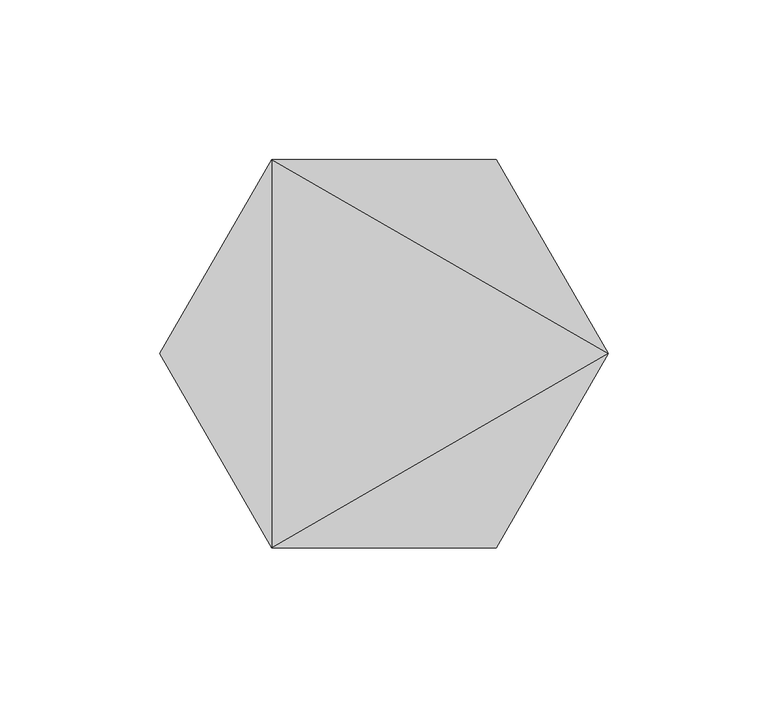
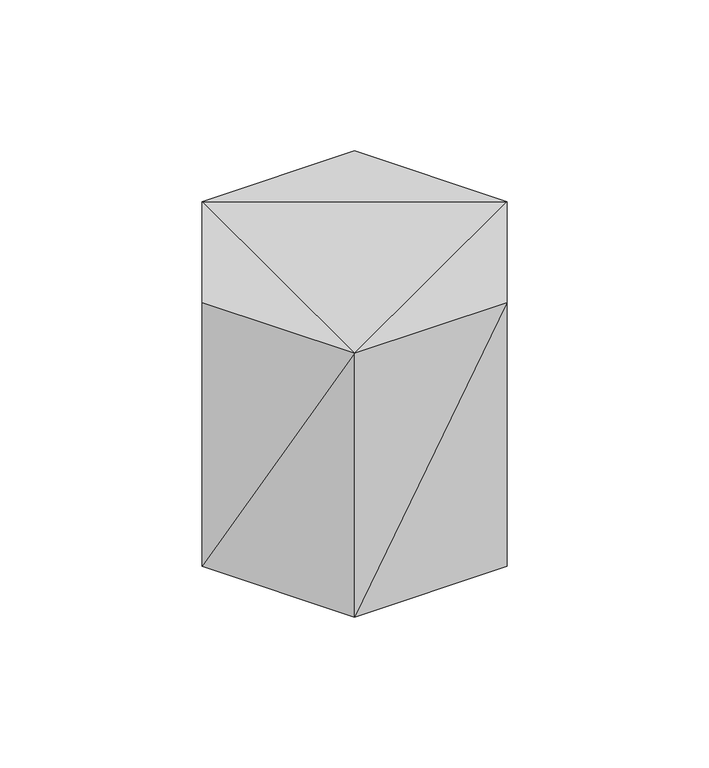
"""IFC4 building model written with IfcOpenShell, lengths in millimetres: geographic element geometry, Enscape AssetDefinition - Canister 02 : Enscape AssetDefinition - Canister 02."""

from ifc_helpers import new_model, si_unit, origin, place, context, project, spatial, faceted_brep, source, transform, mapped, element, save


def geographic_element_6c01276e(model_context):
    return source(origin(), model_context, "Body", "Brep", [
        faceted_brep([(70.0709969, -0.005, -0.084), (35.0349993, -60.6889986, -0.084), (-35.0360014, -60.6889986, -0.084), (70.0709969, -0.005, 128.0400008), (35.0349993, 60.6779978, 128.0400008), (35.0349993, 60.6779978, -0.084), (-35.0360014, 60.6779978, 128.0400008), (-35.0360014, 60.6779978, -0.084), (-70.0719953, -0.005, 128.0400008), (-70.0719953, -0.005, -0.084), (-35.0360014, -60.6889986, 128.0400008), (35.0349993, -60.6889986, 128.0400008)], [[[0, 1, 2]], [[3, 0, 4]], [[4, 5, 6]], [[6, 7, 8]], [[8, 9, 10]], [[10, 2, 11]], [[11, 1, 3]], [[10, 11, 3]], [[7, 2, 9]], [[0, 7, 5]], [[0, 2, 7]], [[4, 0, 5]], [[6, 5, 7]], [[8, 7, 9]], [[10, 9, 2]], [[11, 2, 1]], [[3, 1, 0]], [[6, 3, 4]], [[10, 6, 8]], [[10, 3, 6]]]),
    ])


if __name__ == "__main__":
    model = new_model("IFC4")
    model_context = context("Model", 3, world=origin())
    ifc_project = project(units=[si_unit("LENGTHUNIT", "METRE", prefix="MILLI")], contexts=[model_context])
    site = spatial("IfcSite", under=ifc_project)
    building = spatial("IfcBuilding", under=site)
    placement = place(None, origin())
    geographic_element_shape = geographic_element_6c01276e(model_context)
    element("IfcGeographicElement", 1, ObjectType="Enscape AssetDefinition - Canister 02 : Enscape AssetDefinition - Canister 02", at=placement, inside=building, context=model_context, shape_type="MappedRepresentation", body=[
        mapped(geographic_element_shape, transform((0.0, 0.0, 0.0), x_axis=(1.0, 0.0, 0.0), y_axis=(0.0, 1.0, 0.0), z_axis=(0.0, 0.0, 1.0))),
    ])
    save(model, "model.ifc")
